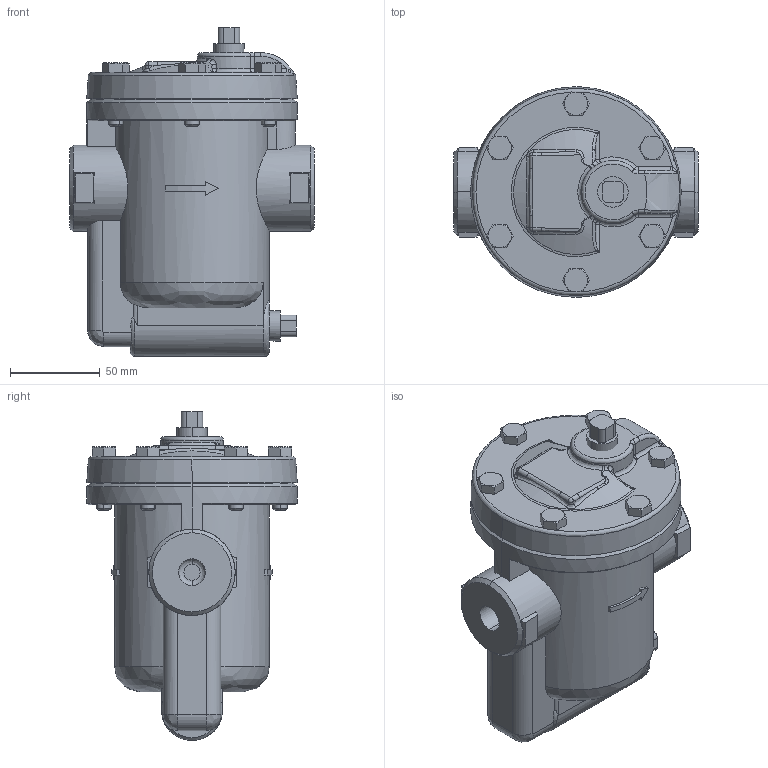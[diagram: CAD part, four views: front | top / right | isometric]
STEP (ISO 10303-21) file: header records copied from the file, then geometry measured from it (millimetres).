
FILE_DESCRIPTION( (''), '2;1');
FILE_NAME ('PC1027.940.1009-01-01 rev00 TB-20 15A_18614.stp','2025-08-01T10:32:35',(''),(''),'spGate 20.6.3 (****-****-****-****)','','');
FILE_SCHEMA (('AUTOMOTIVE_DESIGN'));
Length unit declared in the file: millimetre
Products named in the file (5): Assembly; TB-20 ふた; CP_''_JIS B 1180 呼び径六角ボルト''_17166; TB-20プラグ3_8(3D）; TB-20 15A 本体
Assembly tree (10 placements, depth 2):
  Assembly
    TB-20 ふた
    CP_''_JIS B 1180 呼び径六角ボルト''_17166  x6
    TB-20プラグ3_8(3D）  x2
    TB-20 15A 本体
Bounding box: 136 x 117 x 182.9 mm (x, y, z)
Volume: 1087438.2 mm3; surface area: 112179.1 mm2
Topology: 10 solids, 10 shells, 383 faces, 894 edges, 550 vertices
Faces by surface type: plane 147, bspline 143, cylinder 86, sphere 7
Entity records: 14859 total; most frequent: CARTESIAN_POINT 4508, ORIENTED_EDGE 1216, DIRECTION 1007, COLOUR_RGB 862, PRESENTATION_STYLE_ASSIGNMENT 862, STYLED_ITEM 862, EDGE_CURVE 608, DRAUGHTING_PRE_DEFINED_CURVE_FONT 608
